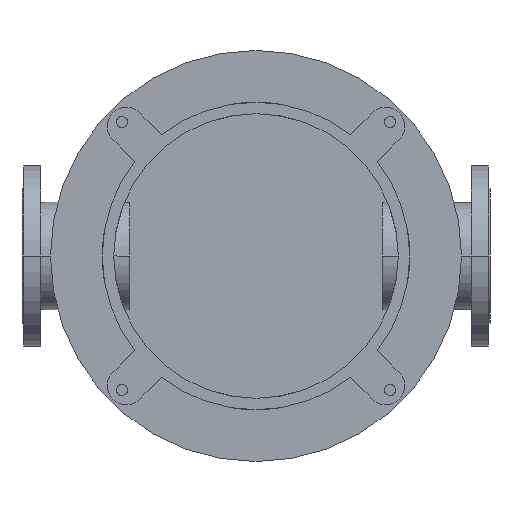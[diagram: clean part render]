
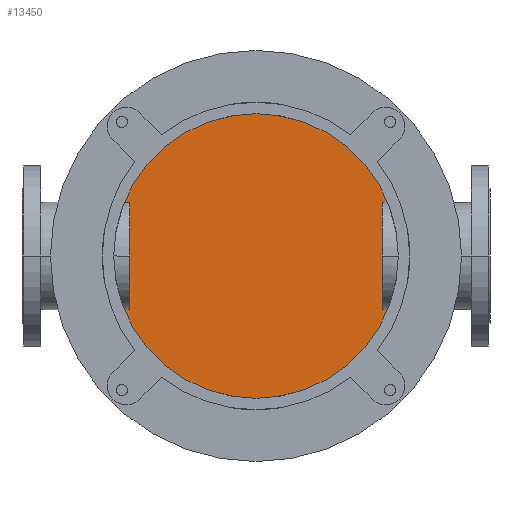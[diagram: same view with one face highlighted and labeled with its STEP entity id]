
A CAD part, front view. The second image highlights one B-rep face of the part: STEP entity #13450.
In plain terms, the highlighted planar face has unit normal (0, -1, 0).
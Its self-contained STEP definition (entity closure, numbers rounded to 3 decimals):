
#2787=CARTESIAN_POINT('',(0.,668.,0.));
#2788=DIRECTION('',(0.,-1.,0.));
#2789=DIRECTION('',(0.,0.,1.));
#2790=AXIS2_PLACEMENT_3D('',#2787,#2788,#2789);
#2914=CARTESIAN_POINT('',(0.,668.,0.));
#2915=DIRECTION('',(0.,-1.,0.));
#2916=DIRECTION('',(0.,0.,-1.));
#2917=AXIS2_PLACEMENT_3D('',#2914,#2915,#2916);
#8605=CARTESIAN_POINT('',(0.,668.,240.));
#8606=CARTESIAN_POINT('',(0.,668.,-240.));
#8607=VERTEX_POINT('',#8605);
#8608=VERTEX_POINT('',#8606);
#13440=CARTESIAN_POINT('',(0.,668.,0.));
#13441=DIRECTION('',(0.,1.,0.));
#13442=DIRECTION('',(0.,0.,-1.));
#13443=AXIS2_PLACEMENT_3D('',#13440,#13441,#13442);
#13444=PLANE('',#13443);
#13445=ORIENTED_EDGE('',*,*,#13424,.F.);
#13447=ORIENTED_EDGE('',*,*,#13446,.F.);
#13448=EDGE_LOOP('',(#13445,#13447));
#13449=FACE_OUTER_BOUND('',#13448,.F.);
#13450=ADVANCED_FACE('',(#13449),#13444,.F.);
#2791=CIRCLE('',#2790,240.);
#2918=CIRCLE('',#2917,240.);
#13424=EDGE_CURVE('',#8607,#8608,#2791,.T.);
#13446=EDGE_CURVE('',#8608,#8607,#2918,.T.);
